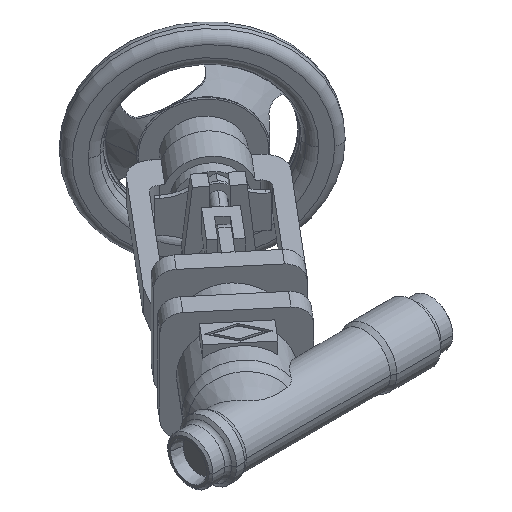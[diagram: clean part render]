
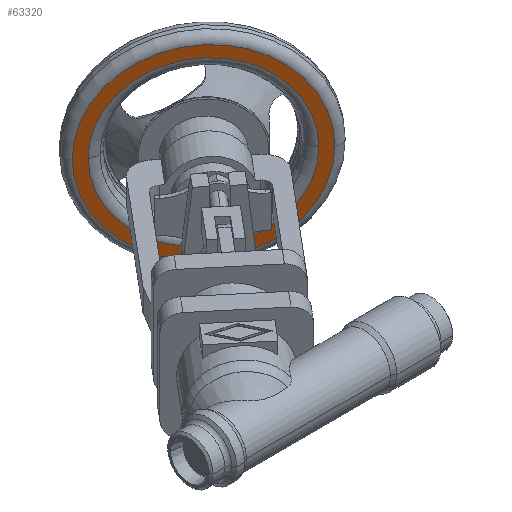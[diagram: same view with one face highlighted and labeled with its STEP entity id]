
A CAD part, isometric view. The second image highlights one B-rep face of the part: STEP entity #63320.
In plain terms, the highlighted planar face has unit normal (-0.643, -0.766, 0).
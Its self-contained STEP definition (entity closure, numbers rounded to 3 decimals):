
#62660=CARTESIAN_POINT('',(213.904,123.756,0.));
#62670=VERTEX_POINT('',#62660);
#62770=CARTESIAN_POINT('',(125.809,197.676,0.));
#62780=VERTEX_POINT('',#62770);
#62810=CARTESIAN_POINT('',(169.857,160.716,0.));
#62820=DIRECTION('',(0.643,0.766,0.));
#62830=DIRECTION('',(-0.766,0.643,
0.));
#62840=AXIS2_PLACEMENT_3D('',#62810,#62820,#62830);
#62850=CIRCLE('',#62840,57.5);
#62860=CARTESIAN_POINT('',(169.857,160.716,-57.5));
#62870=VERTEX_POINT('',#62860);
#62880=EDGE_CURVE('',#62870,#62780,#62850,.T.);
#62900=EDGE_CURVE('',#62670,#62870,#62850,.T.);
#63020=CARTESIAN_POINT('',(128.49,195.427,
0.));
#63030=DIRECTION('',(-0.643,-0.766,0.));
#63040=DIRECTION('',(0.766,-0.643,
0.));
#63050=AXIS2_PLACEMENT_3D('',#63020,#63030,#63040);
#63060=PLANE('',#63050);
#63070=ORIENTED_EDGE('',*,*,#62880,.F.);
#63080=EDGE_CURVE('',#62780,#62670,#62850,.T.);
#63090=ORIENTED_EDGE('',*,*,#63080,.F.);
#63100=ORIENTED_EDGE('',*,*,#62900,.F.);
#63110=EDGE_LOOP('',(#63100,#63090,#63070));
#63120=FACE_OUTER_BOUND('',#63110,.T.);
#63130=CARTESIAN_POINT('',(169.857,160.716,0.));
#63140=DIRECTION('',(0.643,0.766,0.));
#63150=DIRECTION('',(-0.766,0.643,
0.));
#63160=AXIS2_PLACEMENT_3D('',#63130,#63140,#63150);
#63170=CIRCLE('',#63160,50.5);
#63180=CARTESIAN_POINT('',(208.542,128.255,0.));
#63190=VERTEX_POINT('',#63180);
#63200=CARTESIAN_POINT('',(131.172,193.177,0.));
#63210=VERTEX_POINT('',#63200);
#63220=EDGE_CURVE('',#63190,#63210,#63170,.T.);
#63230=ORIENTED_EDGE('',*,*,#63220,.T.);
#63240=CARTESIAN_POINT('',(169.857,160.716,50.5));
#63250=VERTEX_POINT('',#63240);
#63260=EDGE_CURVE('',#63250,#63190,#63170,.T.);
#63270=ORIENTED_EDGE('',*,*,#63260,.T.);
#63280=EDGE_CURVE('',#63210,#63250,#63170,.T.);
#63290=ORIENTED_EDGE('',*,*,#63280,.T.);
#63300=EDGE_LOOP('',(#63290,#63270,#63230));
#63310=FACE_BOUND('',#63300,.T.);
#63320=ADVANCED_FACE('',(#63120,#63310),#63060,.T.);
